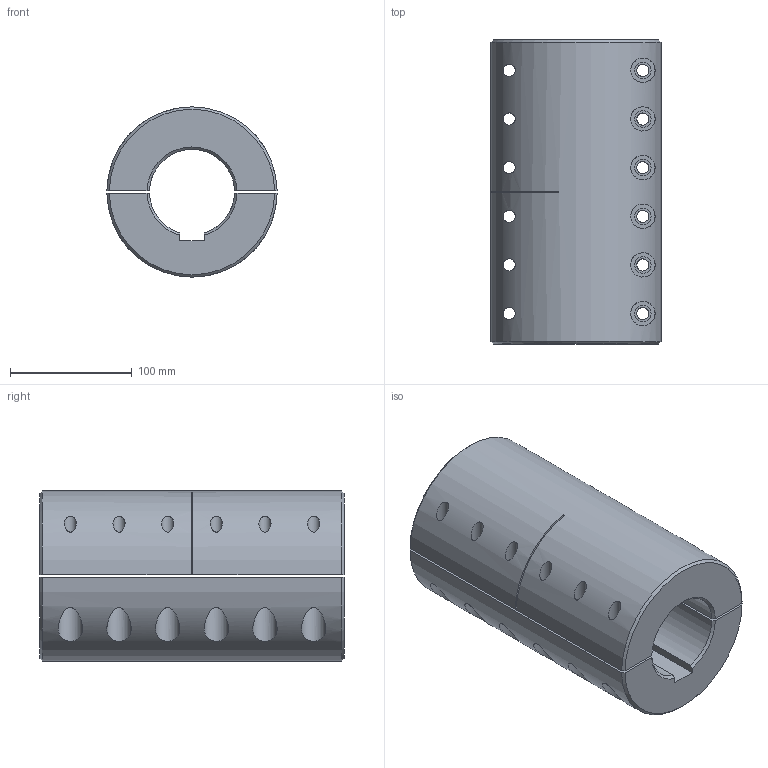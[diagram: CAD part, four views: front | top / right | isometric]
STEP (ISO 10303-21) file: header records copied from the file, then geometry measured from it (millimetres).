
FILE_DESCRIPTION (( 'STEP AP203' ), '1' );
FILE_NAME ('Y140-7070N-F.STEP', '2021-04-14T09:38:22', ( '' ), ( '' ), 'SwSTEP 2.0', 'SolidWorks 2020', '' );
FILE_SCHEMA (( 'CONFIG_CONTROL_DESIGN' ));
Length unit declared in the file: millimetre
Products named in the file (1): Y140-7070N-F
Bounding box: 139.99 x 250 x 140 mm (x, y, z)
Volume: 2648981.6 mm3; surface area: 265341.6 mm2
Topology: 2 solids, 2 shells, 82 faces, 198 edges, 132 vertices
Faces by surface type: cylinder 41, plane 31, cone 10
Full cylindrical faces by diameter (mm): 10 x12, 13.5 x12, 20 x12
Entity records: 4493 total; most frequent: CARTESIAN_POINT 2549, DIRECTION 360, ORIENTED_EDGE 324, EDGE_LOOP 178, EDGE_CURVE 162, AXIS2_PLACEMENT_3D 159, VERTEX_POINT 132, FACE_OUTER_BOUND 118
